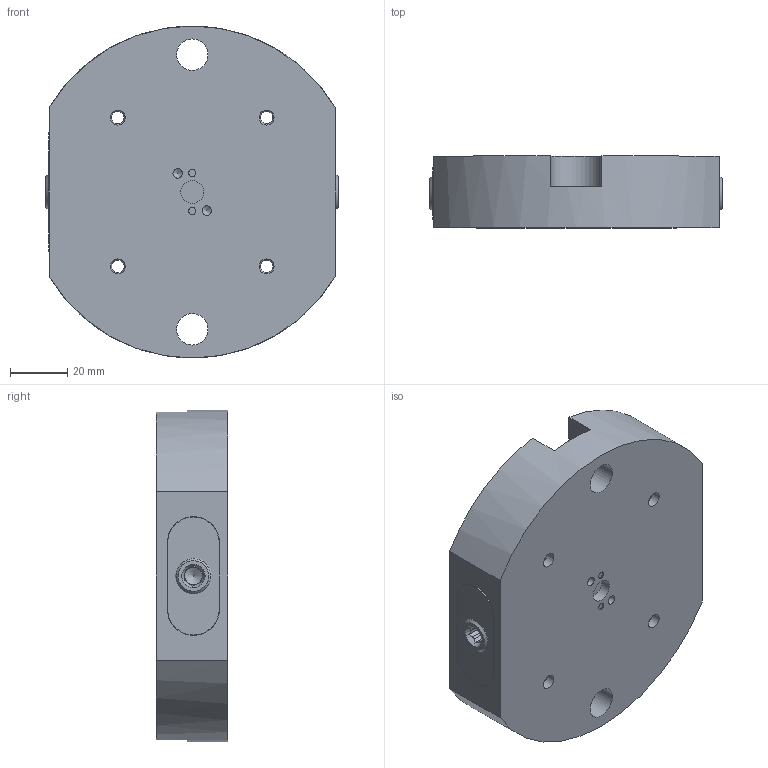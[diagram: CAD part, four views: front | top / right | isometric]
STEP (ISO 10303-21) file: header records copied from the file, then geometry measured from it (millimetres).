
FILE_DESCRIPTION (( 'STEP AP214' ), '1' );
FILE_NAME ('RL52S-4-96_WEBSITE.STEP', '2025-08-11T11:58:54', ( '' ), ( '' ), 'SwSTEP 2.0', 'SolidWorks 2025', '' );
FILE_SCHEMA (( 'AUTOMOTIVE_DESIGN' ));
Length unit declared in the file: inch
Products named in the file (10): D_RL52-2R_WEBSITE; D_HW22X16.DB_WEBSITE; D_92981A144_ALLOY STEEL SHOULDER SCREW_WEBSITE_92981A144; 9452K168-Base-O-Ring_WEBSITE; 9750K720_PLASTIC ROUND PLUG_WEBSITE_9750K72; D_RL52-2L_WEBSITE; D_RL52-3_WEBSITE; RL52S-4-96_WEBSITE; D_RL52-14S-96_WEBSITE; 9452K77-Truck-O-Ring_WEBSITE
Assembly tree (16 placements, depth 2):
  9750K720_PLASTIC ROUND PLUG_WEBSITE_9750K72
  RL52S-4-96_WEBSITE
    D_RL52-14S-96_WEBSITE
    D_RL52-2L_WEBSITE
    D_RL52-2R_WEBSITE
    D_RL52-3_WEBSITE
    D_HW22X16.DB_WEBSITE  x4
    D_92981A144_ALLOY STEEL SHOULDER SCREW_WEBSITE_92981A144  x2
    9452K168-Base-O-Ring_WEBSITE  x4
    9452K77-Truck-O-Ring_WEBSITE  x2
Bounding box: 102.11 x 25 x 116 mm (x, y, z)
Volume: 212503.6 mm3; surface area: 61342.6 mm2
Topology: 18 solids, 18 shells, 272 faces, 592 edges, 369 vertices
Faces by surface type: plane 157, cylinder 85, cone 22, torus 6, bspline 2
Full cylindrical faces by diameter (mm): 0.254 x2, 2.5 x2, 3 x2, 3.3 x2, 4 x2, 4.089 x2, 5.182 x4, 6 x2, 6.147 x2, 7 x2, 8.026 x1, 8.89 x1, 9.144 x4, 9.525 x4, 11 x2, 12 x2, 13.754 x2, 15.24 x2, 15.291 x4, 15.875 x1, 16.002 x4, 16.03 x4, 21.981 x4, 21.994 x4, 22.047 x4
Entity records: 7938 total; most frequent: CARTESIAN_POINT 2335, DIRECTION 1092, ORIENTED_EDGE 876, AXIS2_PLACEMENT_3D 443, EDGE_CURVE 438, EDGE_LOOP 358, VERTEX_POINT 312, FACE_OUTER_BOUND 288
